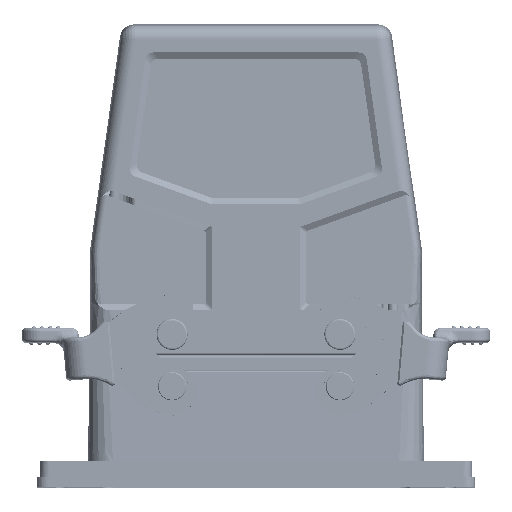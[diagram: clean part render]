
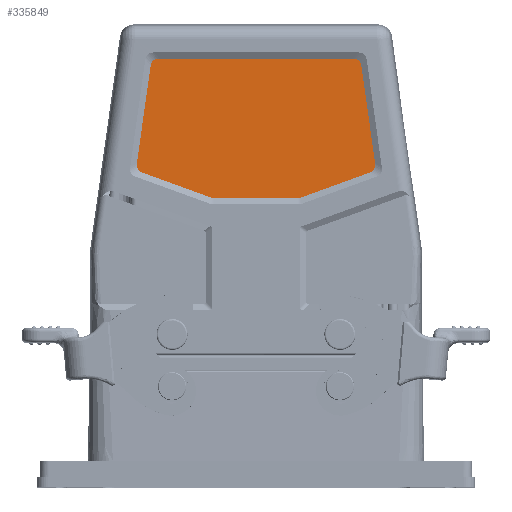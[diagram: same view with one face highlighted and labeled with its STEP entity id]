
A CAD part, top view. The second image highlights one B-rep face of the part: STEP entity #335849.
In plain terms, the highlighted planar face has unit normal (0, 0, 1).
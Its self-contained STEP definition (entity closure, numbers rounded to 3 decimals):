
#1508 = EDGE_CURVE ( 'NONE', #134086, #109091, #212991, .T. ) ;
#19034 = CARTESIAN_POINT ( 'NONE',  ( 29.483, 36.346, 40.25 ) ) ;
#20988 = CARTESIAN_POINT ( 'NONE',  ( -32.08, 4.97, 40.25 ) ) ;
#23204 = B_SPLINE_CURVE_WITH_KNOTS ( 'NONE', 3,
 ( #546611, #383285, #466441, #25455, #340298, #197432 ),
 .UNSPECIFIED., .F., .F.,
 ( 4, 2, 4 ),
 ( 0., 0.5, 1. ),
 .UNSPECIFIED. ) ;
#25455 = CARTESIAN_POINT ( 'NONE',  ( 33.699, 6.459, 40.25 ) ) ;
#27469 = CARTESIAN_POINT ( 'NONE',  ( 29.843, 35.116, 40.25 ) ) ;
#30610 = CARTESIAN_POINT ( 'NONE',  ( -31.046, -2.268, 40.25 ) ) ;
#48882 = CARTESIAN_POINT ( 'NONE',  ( 12.609, -2.117, 40.25 ) ) ;
#58225 = CARTESIAN_POINT ( 'NONE',  ( -11.754, -2.268, 40.25 ) ) ;
#61717 = VERTEX_POINT ( 'NONE', #234242 ) ;
#67504 = PLANE ( 'NONE',  #136155 ) ;
#75004 = VERTEX_POINT ( 'NONE', #352855 ) ;
#81974 = ORIENTED_EDGE ( 'NONE', *, *, #322209, .T. ) ;
#85108 = CARTESIAN_POINT ( 'NONE',  ( -32.08, 4.97, 40.25 ) ) ;
#89667 = B_SPLINE_CURVE_WITH_KNOTS ( 'NONE', 3,
 ( #249541, #378430, #343937, #475651 ),
 .UNSPECIFIED., .F., .F.,
 ( 4, 4 ),
 ( 0., 1. ),
 .UNSPECIFIED. ) ;
#105325 = CARTESIAN_POINT ( 'NONE',  ( -29.744, 35.813, 40.25 ) ) ;
#107909 = CARTESIAN_POINT ( 'NONE',  ( 27.367, 37.268, 40.25 ) ) ;
#109091 = VERTEX_POINT ( 'NONE', #356290 ) ;
#113575 = EDGE_CURVE ( 'NONE', #109091, #75004, #442803, .T. ) ;
#114118 = VERTEX_POINT ( 'NONE', #58225 ) ;
#115423 = EDGE_CURVE ( 'NONE', #483441, #274564, #23204, .T. ) ;
#121739 = EDGE_CURVE ( 'NONE', #549017, #483441, #551918, .T. ) ;
#123571 = ORIENTED_EDGE ( 'NONE', *, *, #1508, .T. ) ;
#126482 = CARTESIAN_POINT ( 'NONE',  ( 12.333, -2.218, 40.25 ) ) ;
#127299 = ORIENTED_EDGE ( 'NONE', *, *, #434008, .T. ) ;
#130489 = VECTOR ( 'NONE', #159797, 1000. ) ;
#134086 = VERTEX_POINT ( 'NONE', #392114 ) ;
#136155 = AXIS2_PLACEMENT_3D ( 'NONE', #548521, #162054, #242267 ) ;
#137804 = CARTESIAN_POINT ( 'NONE',  ( 11.754, -2.268, 40.25 ) ) ;
#149136 = EDGE_CURVE ( 'NONE', #232986, #254260, #298017, .T. ) ;
#156238 = CARTESIAN_POINT ( 'NONE',  ( -32.08, 4.97, 40.25 ) ) ;
#159573 = CARTESIAN_POINT ( 'NONE',  ( -28.635, 37.083, 40.25 ) ) ;
#159797 = DIRECTION ( 'NONE',  ( 0.94, 0.342, 0. ) ) ;
#162054 = DIRECTION ( 'NONE',  ( 0., 0., 1. ) ) ;
#170421 = ORIENTED_EDGE ( 'NONE', *, *, #448763, .T. ) ;
#196595 = VECTOR ( 'NONE', #544987, 1000. ) ;
#196937 = CARTESIAN_POINT ( 'NONE',  ( -29.843, 35.116, 40.25 ) ) ;
#197432 = CARTESIAN_POINT ( 'NONE',  ( 33.7, 7.667, 40.25 ) ) ;
#209368 = VERTEX_POINT ( 'NONE', #156238 ) ;
#211045 = B_SPLINE_CURVE_WITH_KNOTS ( 'NONE', 3,
 ( #137804, #303902, #126482, #48882 ),
 .UNSPECIFIED., .F., .F.,
 ( 4, 4 ),
 ( 0., 1. ),
 .UNSPECIFIED. ) ;
#212991 = B_SPLINE_CURVE_WITH_KNOTS ( 'NONE', 3,
 ( #27469, #411441, #19034, #548641, #333940, #107909 ),
 .UNSPECIFIED., .F., .F.,
 ( 4, 2, 4 ),
 ( 0., 0.5, 1. ),
 .UNSPECIFIED. ) ;
#221769 = EDGE_CURVE ( 'NONE', #114118, #61717, #546185, .T. ) ;
#230827 = DIRECTION ( 'NONE',  ( -1., 0., 0. ) ) ;
#231529 = CARTESIAN_POINT ( 'NONE',  ( -12.609, -2.117, 40.25 ) ) ;
#232986 = VERTEX_POINT ( 'NONE', #492842 ) ;
#234242 = CARTESIAN_POINT ( 'NONE',  ( 11.754, -2.268, 40.25 ) ) ;
#242267 = DIRECTION ( 'NONE',  ( 1., 0., 0. ) ) ;
#245985 = ORIENTED_EDGE ( 'NONE', *, *, #346825, .T. ) ;
#249541 = CARTESIAN_POINT ( 'NONE',  ( -12.609, -2.117, 40.25 ) ) ;
#254260 = VERTEX_POINT ( 'NONE', #289160 ) ;
#261321 = CARTESIAN_POINT ( 'NONE',  ( 32.08, 4.97, 40.25 ) ) ;
#262715 = CARTESIAN_POINT ( 'NONE',  ( -33.698, 6.46, 40.25 ) ) ;
#265522 = CARTESIAN_POINT ( 'NONE',  ( -33.145, 5.538, 40.25 ) ) ;
#265835 = LINE ( 'NONE', #268636, #290984 ) ;
#268636 = CARTESIAN_POINT ( 'NONE',  ( 33.7, 7.667, 40.25 ) ) ;
#274564 = VERTEX_POINT ( 'NONE', #485426 ) ;
#289160 = CARTESIAN_POINT ( 'NONE',  ( -33.7, 7.667, 40.25 ) ) ;
#290984 = VECTOR ( 'NONE', #397517, 1000. ) ;
#293656 = FACE_OUTER_BOUND ( 'NONE', #299929, .T. ) ;
#298017 = LINE ( 'NONE', #352242, #428592 ) ;
#299929 = EDGE_LOOP ( 'NONE', ( #464257, #341424, #457765, #127299, #123571, #497715, #410219, #369337, #170421, #81974, #245985, #384187 ) ) ;
#303902 = CARTESIAN_POINT ( 'NONE',  ( 12.048, -2.268, 40.25 ) ) ;
#311412 = EDGE_CURVE ( 'NONE', #75004, #232986, #492067, .T. ) ;
#322209 = EDGE_CURVE ( 'NONE', #209368, #564836, #507708, .T. ) ;
#324938 = VECTOR ( 'NONE', #230827, 1000. ) ;
#333940 = CARTESIAN_POINT ( 'NONE',  ( 28.071, 37.268, 40.25 ) ) ;
#335849 = ADVANCED_FACE ( 'NONE', ( #293656 ), #67504, .T. ) ;
#340298 = CARTESIAN_POINT ( 'NONE',  ( 33.792, 7.015, 40.25 ) ) ;
#341424 = ORIENTED_EDGE ( 'NONE', *, *, #121739, .T. ) ;
#343937 = CARTESIAN_POINT ( 'NONE',  ( -12.048, -2.268, 40.25 ) ) ;
#346825 = EDGE_CURVE ( 'NONE', #564836, #114118, #89667, .T. ) ;
#350154 = B_SPLINE_CURVE_WITH_KNOTS ( 'NONE', 3,
 ( #400067, #394396, #262715, #265522, #445837, #85108 ),
 .UNSPECIFIED., .F., .F.,
 ( 4, 2, 4 ),
 ( 0., 0.5, 1. ),
 .UNSPECIFIED. ) ;
#352242 = CARTESIAN_POINT ( 'NONE',  ( -29.843, 35.116, 40.25 ) ) ;
#352855 = CARTESIAN_POINT ( 'NONE',  ( -27.367, 37.268, 40.25 ) ) ;
#356290 = CARTESIAN_POINT ( 'NONE',  ( 27.367, 37.268, 40.25 ) ) ;
#359702 = CARTESIAN_POINT ( 'NONE',  ( -31.046, 37.268, 40.25 ) ) ;
#369337 = ORIENTED_EDGE ( 'NONE', *, *, #149136, .T. ) ;
#378430 = CARTESIAN_POINT ( 'NONE',  ( -12.333, -2.218, 40.25 ) ) ;
#383285 = CARTESIAN_POINT ( 'NONE',  ( 32.697, 5.194, 40.25 ) ) ;
#384187 = ORIENTED_EDGE ( 'NONE', *, *, #221769, .T. ) ;
#392114 = CARTESIAN_POINT ( 'NONE',  ( 29.843, 35.116, 40.25 ) ) ;
#394396 = CARTESIAN_POINT ( 'NONE',  ( -33.792, 7.017, 40.25 ) ) ;
#397517 = DIRECTION ( 'NONE',  ( -0.139, 0.99, 0. ) ) ;
#400067 = CARTESIAN_POINT ( 'NONE',  ( -33.7, 7.667, 40.25 ) ) ;
#410219 = ORIENTED_EDGE ( 'NONE', *, *, #311412, .T. ) ;
#411441 = CARTESIAN_POINT ( 'NONE',  ( 29.745, 35.812, 40.25 ) ) ;
#414510 = CARTESIAN_POINT ( 'NONE',  ( -29.483, 36.346, 40.25 ) ) ;
#423779 = CARTESIAN_POINT ( 'NONE',  ( 12.609, -2.117, 40.25 ) ) ;
#428592 = VECTOR ( 'NONE', #526863, 1000. ) ;
#434008 = EDGE_CURVE ( 'NONE', #274564, #134086, #265835, .T. ) ;
#442803 = LINE ( 'NONE', #359702, #324938 ) ;
#444436 = EDGE_CURVE ( 'NONE', #61717, #549017, #211045, .T. ) ;
#445837 = CARTESIAN_POINT ( 'NONE',  ( -32.698, 5.195, 40.25 ) ) ;
#448763 = EDGE_CURVE ( 'NONE', #254260, #209368, #350154, .T. ) ;
#457765 = ORIENTED_EDGE ( 'NONE', *, *, #115423, .T. ) ;
#464257 = ORIENTED_EDGE ( 'NONE', *, *, #444436, .T. ) ;
#466012 = DIRECTION ( 'NONE',  ( 1., 0., 0. ) ) ;
#466441 = CARTESIAN_POINT ( 'NONE',  ( 33.144, 5.538, 40.25 ) ) ;
#475651 = CARTESIAN_POINT ( 'NONE',  ( -11.754, -2.268, 40.25 ) ) ;
#483441 = VERTEX_POINT ( 'NONE', #261321 ) ;
#485426 = CARTESIAN_POINT ( 'NONE',  ( 33.7, 7.667, 40.25 ) ) ;
#492067 = B_SPLINE_CURVE_WITH_KNOTS ( 'NONE', 3,
 ( #497575, #508844, #159573, #414510, #105325, #196937 ),
 .UNSPECIFIED., .F., .F.,
 ( 4, 2, 4 ),
 ( 0., 0.5, 1. ),
 .UNSPECIFIED. ) ;
#492842 = CARTESIAN_POINT ( 'NONE',  ( -29.843, 35.116, 40.25 ) ) ;
#495401 = VECTOR ( 'NONE', #466012, 1000. ) ;
#497575 = CARTESIAN_POINT ( 'NONE',  ( -27.367, 37.268, 40.25 ) ) ;
#497715 = ORIENTED_EDGE ( 'NONE', *, *, #113575, .T. ) ;
#503429 = CARTESIAN_POINT ( 'NONE',  ( 12.609, -2.117, 40.25 ) ) ;
#507708 = LINE ( 'NONE', #20988, #196595 ) ;
#508844 = CARTESIAN_POINT ( 'NONE',  ( -28.07, 37.268, 40.25 ) ) ;
#526863 = DIRECTION ( 'NONE',  ( -0.139, -0.99, 0. ) ) ;
#544987 = DIRECTION ( 'NONE',  ( 0.94, -0.342, 0. ) ) ;
#546185 = LINE ( 'NONE', #30610, #495401 ) ;
#546611 = CARTESIAN_POINT ( 'NONE',  ( 32.08, 4.97, 40.25 ) ) ;
#548521 = CARTESIAN_POINT ( 'NONE',  ( -37.089, -4., 40.25 ) ) ;
#548641 = CARTESIAN_POINT ( 'NONE',  ( 28.635, 37.084, 40.25 ) ) ;
#549017 = VERTEX_POINT ( 'NONE', #423779 ) ;
#551918 = LINE ( 'NONE', #503429, #130489 ) ;
#564836 = VERTEX_POINT ( 'NONE', #231529 ) ;
